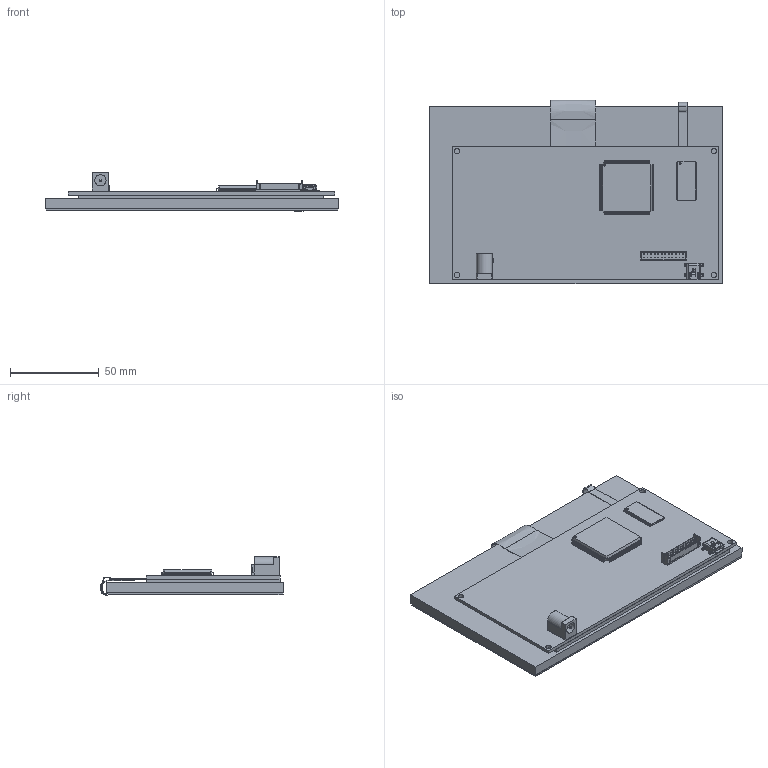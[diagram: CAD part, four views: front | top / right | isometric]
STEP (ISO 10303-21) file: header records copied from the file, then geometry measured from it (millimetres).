
FILE_DESCRIPTION(/* description */ (''),/* implementation_level */ '2;1');
FILE_NAME(/* name */ 'C:/Users/Johnny/Dropbox/Amulet 3D Step Models/MK-070R v3.step',/* time_stamp */ '2016-08-25T14:37:32-07:00',/* author */ (''),/* organization */ (''),/* preprocessor_version */ 'ST-DEVELOPER v16.5',/* originating_system */ 'Autodesk Translation Framework v5.1.0.2740',/* authorisation */ '');
FILE_SCHEMA (('AUTOMOTIVE_DESIGN { 1 0 10303 214 3 1 1 }'));
Products named in the file (10): FromSTP v3; stuffed pcb; Bare PCB; 24pin Hirose header-1; USB_mini_B-1; TQFP-208; Power Barrel Connector; Tape; 7IN-Res Display; 86-TSOP v1
Assembly tree (9 placements, depth 3):
  FromSTP v3
    stuffed pcb
      Bare PCB
      24pin Hirose header-1
      USB_mini_B-1
      TQFP-208
      Power Barrel Connector
    Tape
    7IN-Res Display
    86-TSOP v1
Bounding box: 164.9 x 103.31 x 21.75 mm (x, y, z)
Volume: 140240.6 mm3; surface area: 73733 mm2
Topology: 8 solids, 8 shells, 4818 faces, 13032 edges, 8568 vertices
Faces by surface type: plane 3456, cylinder 1300, bspline 51, sphere 11
Full cylindrical faces by diameter (mm): 0.8 x2, 1 x1, 1.27 x1, 3.07 x4, 6.35 x1
Entity records: 155358 total; most frequent: CARTESIAN_POINT 27637, ORIENTED_EDGE 26010, DIRECTION 25156, EDGE_CURVE 13005, LINE 10306, VECTOR 10306, VERTEX_POINT 8561, AXIS2_PLACEMENT_3D 7425
